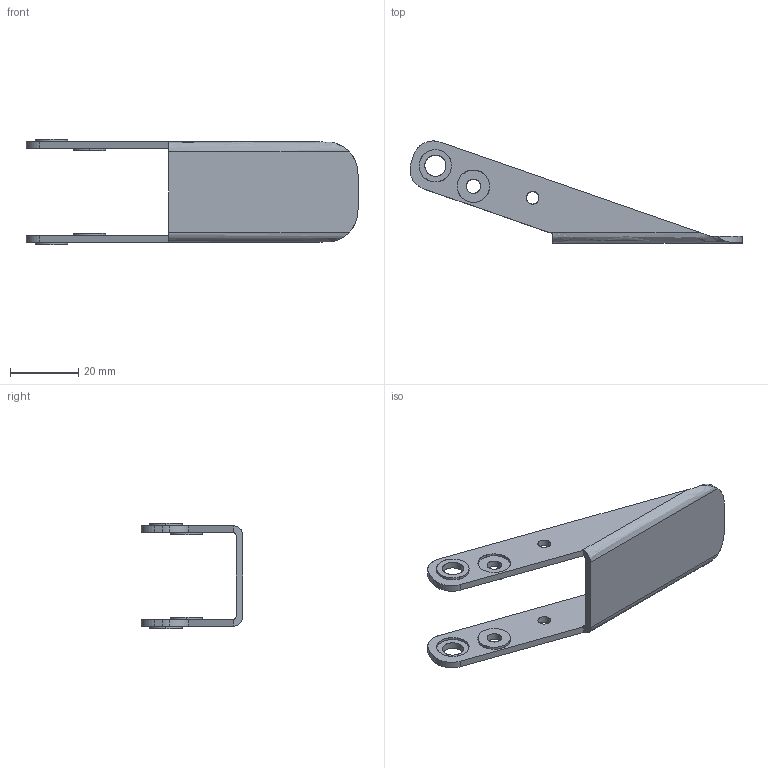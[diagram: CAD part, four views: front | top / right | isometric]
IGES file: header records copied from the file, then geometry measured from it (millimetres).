
Start section: SolidWorks IGES FILE using analytic representation for surfaces
Global section: file name: C:\Documents and Settings\brechard\Bureau\GE 84\84.010.00.IGS; native system: SolidWorks 2001Plus by SolidWorks Corporation; preprocessor: Version 5.3; author: brechard; date: 050126.111900; units: millimetre
Bounding box: 97.3 x 29.88 x 30.9 mm (x, y, z)
Surface area: 7812.6 mm2 (no closed solid volume)
Topology: 0 solids, 0 shells, 62 faces, 1296 edges, 1296 vertices
Faces by surface type: revolution 40, bspline 22
